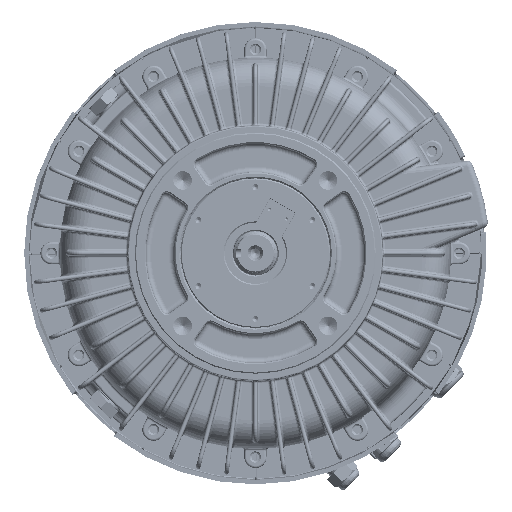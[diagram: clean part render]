
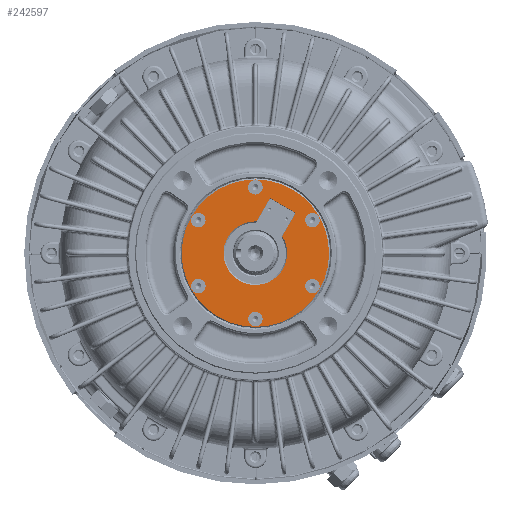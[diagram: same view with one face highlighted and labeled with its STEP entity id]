
A CAD part, front view. The second image highlights one B-rep face of the part: STEP entity #242597.
In plain terms, the highlighted planar face has unit normal (0, -1, 0) as drawn and (0, 0, -1) by its records, which use the part's own axes.
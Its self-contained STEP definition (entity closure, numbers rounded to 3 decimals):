
#1687 = CARTESIAN_POINT ( 'NONE',  ( 51.095, -29.5, 0. ) ) ;
#4298 = EDGE_CURVE ( 'NONE', #232379, #366035, #162094, .T. ) ;
#8279 = EDGE_CURVE ( 'NONE', #428210, #428210, #319379, .T. ) ;
#18335 = VERTEX_POINT ( 'NONE', #302907 ) ;
#23613 = VERTEX_POINT ( 'NONE', #125987 ) ;
#27118 = EDGE_CURVE ( 'NONE', #191647, #191647, #192256, .T. ) ;
#30215 = CARTESIAN_POINT ( 'NONE',  ( 51.095, -23., 0. ) ) ;
#33702 = ORIENTED_EDGE ( 'NONE', *, *, #27118, .T. ) ;
#34588 = VERTEX_POINT ( 'NONE', #30215 ) ;
#35580 = EDGE_LOOP ( 'NONE', ( #123489 ) ) ;
#37266 = DIRECTION ( 'NONE',  ( 0., 0., -1. ) ) ;
#37745 = FACE_BOUND ( 'NONE', #394482, .T. ) ;
#42073 = DIRECTION ( 'NONE',  ( 0., 1., 0. ) ) ;
#60548 = DIRECTION ( 'NONE',  ( 1., 0., 0. ) ) ;
#63615 = CARTESIAN_POINT ( 'NONE',  ( 0., 65.5, 0. ) ) ;
#67675 = ORIENTED_EDGE ( 'NONE', *, *, #434554, .F. ) ;
#74820 = ORIENTED_EDGE ( 'NONE', *, *, #119005, .T. ) ;
#82620 = DIRECTION ( 'NONE',  ( 0., 0., -1. ) ) ;
#83912 = DIRECTION ( 'NONE',  ( 0., 1., 0. ) ) ;
#87816 = CARTESIAN_POINT ( 'NONE',  ( 0., -52.5, 0. ) ) ;
#88395 = EDGE_LOOP ( 'NONE', ( #286183 ) ) ;
#88413 = DIRECTION ( 'NONE',  ( 0., 0., -1. ) ) ;
#100298 = CIRCLE ( 'NONE', #348979, 6.5 ) ;
#100526 = DIRECTION ( 'NONE',  ( 0., 1., 0. ) ) ;
#103393 = DIRECTION ( 'NONE',  ( 0., 0., -1. ) ) ;
#104596 = FACE_BOUND ( 'NONE', #88395, .T. ) ;
#105379 = AXIS2_PLACEMENT_3D ( 'NONE', #211143, #346879, #313528 ) ;
#106755 = PLANE ( 'NONE',  #148242 ) ;
#111064 = FACE_OUTER_BOUND ( 'NONE', #340316, .T. ) ;
#119005 = EDGE_CURVE ( 'NONE', #366035, #18335, #401055, .T. ) ;
#120838 = EDGE_LOOP ( 'NONE', ( #67675 ) ) ;
#121096 = CARTESIAN_POINT ( 'NONE',  ( 25.206, -13.3, 0. ) ) ;
#123398 = CARTESIAN_POINT ( 'NONE',  ( -51.095, -23., 0. ) ) ;
#123489 = ORIENTED_EDGE ( 'NONE', *, *, #251868, .F. ) ;
#125546 = CIRCLE ( 'NONE', #331797, 6.5 ) ;
#125987 = CARTESIAN_POINT ( 'NONE',  ( 51.095, 36., 0. ) ) ;
#129547 = CARTESIAN_POINT ( 'NONE',  ( 49., -13.3, 0. ) ) ;
#136078 = DIRECTION ( 'NONE',  ( 0., 0., -1. ) ) ;
#136480 = CARTESIAN_POINT ( 'NONE',  ( -51.095, 36., 0. ) ) ;
#147979 = VECTOR ( 'NONE', #83912, 1000. ) ;
#148242 = AXIS2_PLACEMENT_3D ( 'NONE', #418088, #376133, #42073 ) ;
#149122 = AXIS2_PLACEMENT_3D ( 'NONE', #337827, #37266, #206462 ) ;
#150135 = VERTEX_POINT ( 'NONE', #87816 ) ;
#162094 = CIRCLE ( 'NONE', #105379, 28.5 ) ;
#163527 = CARTESIAN_POINT ( 'NONE',  ( 25.206, 13.3, 0. ) ) ;
#171664 = CARTESIAN_POINT ( 'NONE',  ( 0., 0., 0. ) ) ;
#175843 = VERTEX_POINT ( 'NONE', #384284 ) ;
#177867 = FACE_BOUND ( 'NONE', #378334, .T. ) ;
#180052 = FACE_BOUND ( 'NONE', #414737, .T. ) ;
#185040 = CARTESIAN_POINT ( 'NONE',  ( 0., 66., 0. ) ) ;
#185457 = CARTESIAN_POINT ( 'NONE',  ( 51.095, 29.5, 0. ) ) ;
#191647 = VERTEX_POINT ( 'NONE', #185040 ) ;
#192256 = CIRCLE ( 'NONE', #433853, 66. ) ;
#200298 = EDGE_LOOP ( 'NONE', ( #390664 ) ) ;
#205309 = LINE ( 'NONE', #403398, #348188 ) ;
#205748 = DIRECTION ( 'NONE',  ( 0., 1., 0. ) ) ;
#206462 = DIRECTION ( 'NONE',  ( 0., 1., 0. ) ) ;
#211143 = CARTESIAN_POINT ( 'NONE',  ( 0., 0., 0. ) ) ;
#226700 = EDGE_CURVE ( 'NONE', #23613, #23613, #100298, .T. ) ;
#232379 = VERTEX_POINT ( 'NONE', #163527 ) ;
#240393 = FACE_BOUND ( 'NONE', #120838, .T. ) ;
#242597 = ADVANCED_FACE ( 'NONE', ( #177867, #111064, #384852, #104596, #180052, #240393, #309323, #37745 ), #106755, .T. ) ;
#242814 = ORIENTED_EDGE ( 'NONE', *, *, #386033, .T. ) ;
#251868 = EDGE_CURVE ( 'NONE', #34588, #34588, #374958, .T. ) ;
#252255 = DIRECTION ( 'NONE',  ( 0., 1., 0. ) ) ;
#258598 = EDGE_CURVE ( 'NONE', #368553, #368553, #341154, .T. ) ;
#284248 = LINE ( 'NONE', #309505, #147979 ) ;
#286183 = ORIENTED_EDGE ( 'NONE', *, *, #307680, .F. ) ;
#286817 = ORIENTED_EDGE ( 'NONE', *, *, #226700, .F. ) ;
#286911 = ORIENTED_EDGE ( 'NONE', *, *, #8279, .F. ) ;
#290908 = DIRECTION ( 'NONE',  ( 0., 1., 0. ) ) ;
#302907 = CARTESIAN_POINT ( 'NONE',  ( 49.3, -13.3, 0. ) ) ;
#307680 = EDGE_CURVE ( 'NONE', #410173, #410173, #125546, .T. ) ;
#309323 = FACE_BOUND ( 'NONE', #35580, .T. ) ;
#309505 = CARTESIAN_POINT ( 'NONE',  ( 49.3, 13., 0. ) ) ;
#313528 = DIRECTION ( 'NONE',  ( 0., 1., 0. ) ) ;
#314210 = CARTESIAN_POINT ( 'NONE',  ( 0., -59., 0. ) ) ;
#319379 = CIRCLE ( 'NONE', #383580, 6.5 ) ;
#321010 = AXIS2_PLACEMENT_3D ( 'NONE', #314210, #82620, #416449 ) ;
#324314 = CARTESIAN_POINT ( 'NONE',  ( -51.095, -29.5, 0. ) ) ;
#327201 = VECTOR ( 'NONE', #60548, 1000. ) ;
#331797 = AXIS2_PLACEMENT_3D ( 'NONE', #408268, #103393, #205748 ) ;
#336158 = EDGE_CURVE ( 'NONE', #18335, #175843, #284248, .T. ) ;
#337792 = DIRECTION ( 'NONE',  ( 0., 1., 0. ) ) ;
#337827 = CARTESIAN_POINT ( 'NONE',  ( 0., 59., 0. ) ) ;
#340316 = EDGE_LOOP ( 'NONE', ( #33702 ) ) ;
#341042 = DIRECTION ( 'NONE',  ( -1., 0., 0. ) ) ;
#341154 = CIRCLE ( 'NONE', #149122, 6.5 ) ;
#342349 = CIRCLE ( 'NONE', #321010, 6.5 ) ;
#344354 = DIRECTION ( 'NONE',  ( 0., 0., -1. ) ) ;
#346879 = DIRECTION ( 'NONE',  ( 0., 0., 1. ) ) ;
#348188 = VECTOR ( 'NONE', #341042, 1000. ) ;
#348979 = AXIS2_PLACEMENT_3D ( 'NONE', #185457, #350201, #252255 ) ;
#350201 = DIRECTION ( 'NONE',  ( 0., 0., -1. ) ) ;
#359461 = ORIENTED_EDGE ( 'NONE', *, *, #336158, .T. ) ;
#366035 = VERTEX_POINT ( 'NONE', #121096 ) ;
#368553 = VERTEX_POINT ( 'NONE', #63615 ) ;
#374958 = CIRCLE ( 'NONE', #410134, 6.5 ) ;
#376133 = DIRECTION ( 'NONE',  ( 0., 0., -1. ) ) ;
#378334 = EDGE_LOOP ( 'NONE', ( #382443, #74820, #359461, #242814 ) ) ;
#382443 = ORIENTED_EDGE ( 'NONE', *, *, #4298, .T. ) ;
#383580 = AXIS2_PLACEMENT_3D ( 'NONE', #324314, #88413, #290908 ) ;
#384284 = CARTESIAN_POINT ( 'NONE',  ( 49.3, 13.3, 0. ) ) ;
#384852 = FACE_BOUND ( 'NONE', #200298, .T. ) ;
#386033 = EDGE_CURVE ( 'NONE', #175843, #232379, #205309, .T. ) ;
#390664 = ORIENTED_EDGE ( 'NONE', *, *, #258598, .F. ) ;
#394482 = EDGE_LOOP ( 'NONE', ( #286817 ) ) ;
#401055 = LINE ( 'NONE', #129547, #327201 ) ;
#403398 = CARTESIAN_POINT ( 'NONE',  ( 25.362, 13.3, 0. ) ) ;
#408268 = CARTESIAN_POINT ( 'NONE',  ( -51.095, 29.5, 0. ) ) ;
#410134 = AXIS2_PLACEMENT_3D ( 'NONE', #1687, #344354, #337792 ) ;
#410173 = VERTEX_POINT ( 'NONE', #136480 ) ;
#414737 = EDGE_LOOP ( 'NONE', ( #286911 ) ) ;
#416449 = DIRECTION ( 'NONE',  ( 0., 1., 0. ) ) ;
#418088 = CARTESIAN_POINT ( 'NONE',  ( 0., 67., 0. ) ) ;
#428210 = VERTEX_POINT ( 'NONE', #123398 ) ;
#433853 = AXIS2_PLACEMENT_3D ( 'NONE', #171664, #136078, #100526 ) ;
#434554 = EDGE_CURVE ( 'NONE', #150135, #150135, #342349, .T. ) ;
